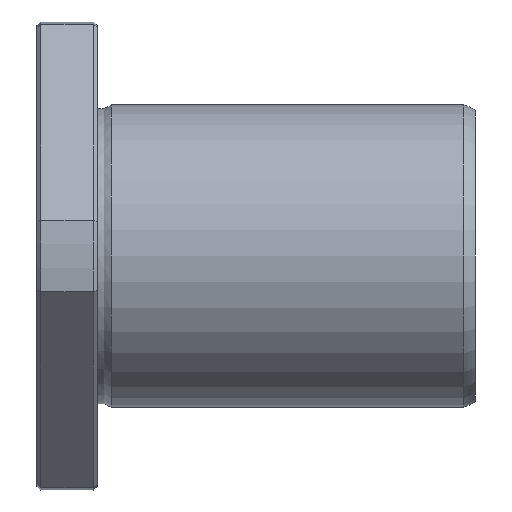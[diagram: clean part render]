
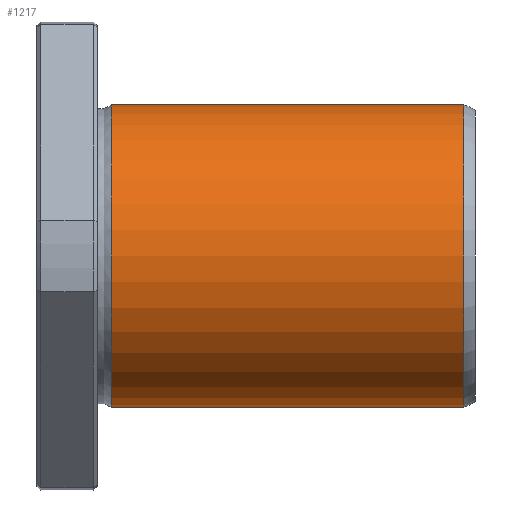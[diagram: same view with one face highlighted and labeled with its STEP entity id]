
A CAD part, front view. The second image highlights one B-rep face of the part: STEP entity #1217.
In plain terms, the highlighted cylindrical face has radius 20 mm (diameter 40 mm), a full revolution.
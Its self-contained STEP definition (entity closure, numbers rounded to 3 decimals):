
#1183=CARTESIAN_POINT('',(56.502,0.0,20.));
#1184=VERTEX_POINT('',#1183);
#1185=CARTESIAN_POINT('',(56.502,0.0,0.0));
#1186=DIRECTION('',(-1.0,0.0,0.0));
#1187=DIRECTION('',(0.0,0.0,1.0));
#1188=AXIS2_PLACEMENT_3D('',#1185,#1186,#1187);
#1189=CIRCLE('',#1188,20.);
#1190=EDGE_CURVE('',#1184,#1184,#1189,.T.);
#1198=CARTESIAN_POINT('',(33.162,0.0,0.0));
#1199=DIRECTION('',(-1.0,0.0,0.0));
#1200=DIRECTION('',(0.0,0.0,1.0));
#1201=AXIS2_PLACEMENT_3D('',#1198,#1199,#1200);
#1202=CYLINDRICAL_SURFACE('',#1201,20.);
#1203=CARTESIAN_POINT('',(9.823,0.0,20.0));
#1204=VERTEX_POINT('',#1203);
#1205=CARTESIAN_POINT('',(9.823,0.0,0.0));
#1206=DIRECTION('',(-1.0,0.0,0.0));
#1207=DIRECTION('',(0.0,0.0,1.0));
#1208=AXIS2_PLACEMENT_3D('',#1205,#1206,#1207);
#1209=CIRCLE('',#1208,20.0);
#1210=EDGE_CURVE('',#1204,#1204,#1209,.T.);
#1211=ORIENTED_EDGE('',*,*,#1210,.F.);
#1212=EDGE_LOOP('',(#1211));
#1213=FACE_OUTER_BOUND('',#1212,.T.);
#1214=ORIENTED_EDGE('',*,*,#1190,.T.);
#1215=EDGE_LOOP('',(#1214));
#1216=FACE_BOUND('',#1215,.T.);
#1217=ADVANCED_FACE('',(#1213,#1216),#1202,.T.);
